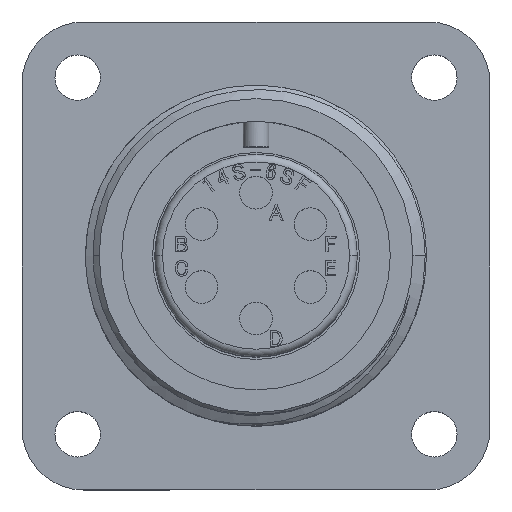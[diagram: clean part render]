
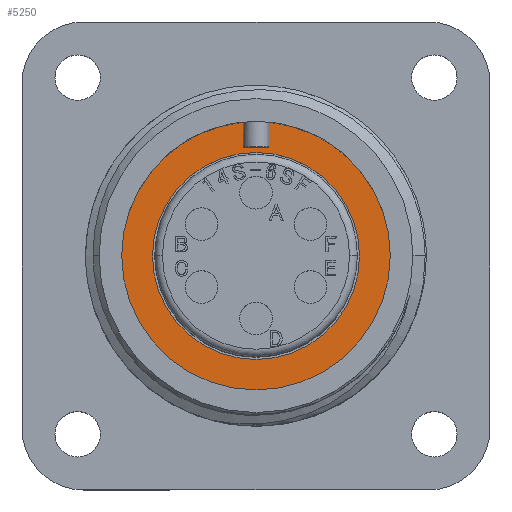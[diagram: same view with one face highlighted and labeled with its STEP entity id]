
A CAD part, top view. The second image highlights one B-rep face of the part: STEP entity #5250.
In plain terms, the highlighted planar face has unit normal (0, 0, 1).
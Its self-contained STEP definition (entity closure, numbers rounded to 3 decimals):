
#661 = VERTEX_POINT ( 'NONE', #42072 ) ;
#1020 = DIRECTION ( 'NONE',  ( 1., 0., 0. ) ) ;
#1274 = EDGE_CURVE ( 'NONE', #36844, #19490, #35662, .T. ) ;
#1598 = ORIENTED_EDGE ( 'NONE', *, *, #7272, .T. ) ;
#3154 = LINE ( 'NONE', #9750, #47001 ) ;
#3376 = CARTESIAN_POINT ( 'NONE',  ( 0.825, 8.631, -14.3 ) ) ;
#5250 = ADVANCED_FACE ( 'NONE', ( #30072, #6723 ), #50881, .T. ) ;
#6350 = CARTESIAN_POINT ( 'NONE',  ( -0.825, 8.631, -14.3 ) ) ;
#6723 = FACE_OUTER_BOUND ( 'NONE', #25796, .T. ) ;
#7038 = LINE ( 'NONE', #50401, #17358 ) ;
#7185 = VERTEX_POINT ( 'NONE', #52602 ) ;
#7272 = EDGE_CURVE ( 'NONE', #8908, #22776, #3154, .T. ) ;
#8908 = VERTEX_POINT ( 'NONE', #3376 ) ;
#9750 = CARTESIAN_POINT ( 'NONE',  ( 0.825, 500000., -14.3 ) ) ;
#11885 = DIRECTION ( 'NONE',  ( 0., 0., 1. ) ) ;
#13569 = ORIENTED_EDGE ( 'NONE', *, *, #39768, .T. ) ;
#14351 = DIRECTION ( 'NONE',  ( 0., -1., 0. ) ) ;
#15896 = CARTESIAN_POINT ( 'NONE',  ( 0., 8.67, -14.3 ) ) ;
#17358 = VECTOR ( 'NONE', #19832, 1000. ) ;
#17718 = EDGE_CURVE ( 'NONE', #22776, #35327, #28818, .T. ) ;
#18799 = CARTESIAN_POINT ( 'NONE',  ( 0.825, 7.03, -14.3 ) ) ;
#19490 = VERTEX_POINT ( 'NONE', #23357 ) ;
#19518 = DIRECTION ( 'NONE',  ( 0., 0., 1. ) ) ;
#19721 = AXIS2_PLACEMENT_3D ( 'NONE', #15896, #24723, #55285 ) ;
#19832 = DIRECTION ( 'NONE',  ( 0., -1., 0. ) ) ;
#20649 = DIRECTION ( 'NONE',  ( 0., 0., 1. ) ) ;
#21142 = CIRCLE ( 'NONE', #46028, 8.67 ) ;
#21576 = DIRECTION ( 'NONE',  ( 0., 0., 1. ) ) ;
#21639 = ORIENTED_EDGE ( 'NONE', *, *, #32031, .F. ) ;
#22776 = VERTEX_POINT ( 'NONE', #29480 ) ;
#23357 = CARTESIAN_POINT ( 'NONE',  ( 8.67, 0., -14.3 ) ) ;
#24506 = CARTESIAN_POINT ( 'NONE',  ( -8.67, 0., -14.3 ) ) ;
#24549 = AXIS2_PLACEMENT_3D ( 'NONE', #47731, #21576, #52130 ) ;
#24723 = DIRECTION ( 'NONE',  ( 0., 0., 1. ) ) ;
#25796 = EDGE_LOOP ( 'NONE', ( #50045, #51549, #13569, #1598, #46571, #41144 ) ) ;
#25927 = AXIS2_PLACEMENT_3D ( 'NONE', #53500, #27326, #1020 ) ;
#25940 = ORIENTED_EDGE ( 'NONE', *, *, #47362, .F. ) ;
#27326 = DIRECTION ( 'NONE',  ( 0., 0., 1. ) ) ;
#27751 = AXIS2_PLACEMENT_3D ( 'NONE', #45723, #19518, #50082 ) ;
#28818 = LINE ( 'NONE', #18799, #52031 ) ;
#29480 = CARTESIAN_POINT ( 'NONE',  ( 0.825, 7.03, -14.3 ) ) ;
#30072 = FACE_BOUND ( 'NONE', #44640, .T. ) ;
#30226 = EDGE_CURVE ( 'NONE', #36470, #36844, #21142, .T. ) ;
#32031 = EDGE_CURVE ( 'NONE', #661, #7185, #47720, .T. ) ;
#35327 = VERTEX_POINT ( 'NONE', #41709 ) ;
#35662 = CIRCLE ( 'NONE', #24549, 8.67 ) ;
#36124 = EDGE_CURVE ( 'NONE', #36470, #35327, #7038, .T. ) ;
#36470 = VERTEX_POINT ( 'NONE', #6350 ) ;
#36844 = VERTEX_POINT ( 'NONE', #24506 ) ;
#38063 = CARTESIAN_POINT ( 'NONE',  ( 0., 0., -14.3 ) ) ;
#39768 = EDGE_CURVE ( 'NONE', #19490, #8908, #47952, .T. ) ;
#40616 = CIRCLE ( 'NONE', #27751, 6.68 ) ;
#41144 = ORIENTED_EDGE ( 'NONE', *, *, #36124, .F. ) ;
#41709 = CARTESIAN_POINT ( 'NONE',  ( -0.825, 7.03, -14.3 ) ) ;
#42072 = CARTESIAN_POINT ( 'NONE',  ( -6.68, 0., -14.3 ) ) ;
#42452 = DIRECTION ( 'NONE',  ( 1., 0., 0. ) ) ;
#44640 = EDGE_LOOP ( 'NONE', ( #25940, #21639 ) ) ;
#45723 = CARTESIAN_POINT ( 'NONE',  ( 0., 0., -14.3 ) ) ;
#46028 = AXIS2_PLACEMENT_3D ( 'NONE', #38063, #11885, #42452 ) ;
#46571 = ORIENTED_EDGE ( 'NONE', *, *, #17718, .T. ) ;
#46825 = CARTESIAN_POINT ( 'NONE',  ( 0., 0., -14.3 ) ) ;
#47001 = VECTOR ( 'NONE', #14351, 1000. ) ;
#47362 = EDGE_CURVE ( 'NONE', #7185, #661, #40616, .T. ) ;
#47720 = CIRCLE ( 'NONE', #25927, 6.68 ) ;
#47731 = CARTESIAN_POINT ( 'NONE',  ( 0., 0., -14.3 ) ) ;
#47952 = CIRCLE ( 'NONE', #51330, 8.67 ) ;
#49385 = DIRECTION ( 'NONE',  ( -1., 0., 0. ) ) ;
#50045 = ORIENTED_EDGE ( 'NONE', *, *, #30226, .T. ) ;
#50082 = DIRECTION ( 'NONE',  ( 1., 0., 0. ) ) ;
#50401 = CARTESIAN_POINT ( 'NONE',  ( -0.825, 500000., -14.3 ) ) ;
#50881 = PLANE ( 'NONE',  #19721 ) ;
#51177 = DIRECTION ( 'NONE',  ( 1., 0., 0. ) ) ;
#51330 = AXIS2_PLACEMENT_3D ( 'NONE', #46825, #20649, #51177 ) ;
#51549 = ORIENTED_EDGE ( 'NONE', *, *, #1274, .T. ) ;
#52031 = VECTOR ( 'NONE', #49385, 1000. ) ;
#52130 = DIRECTION ( 'NONE',  ( 1., 0., 0. ) ) ;
#52602 = CARTESIAN_POINT ( 'NONE',  ( 6.68, 0., -14.3 ) ) ;
#53500 = CARTESIAN_POINT ( 'NONE',  ( 0., 0., -14.3 ) ) ;
#55285 = DIRECTION ( 'NONE',  ( 1., 0., 0. ) ) ;
